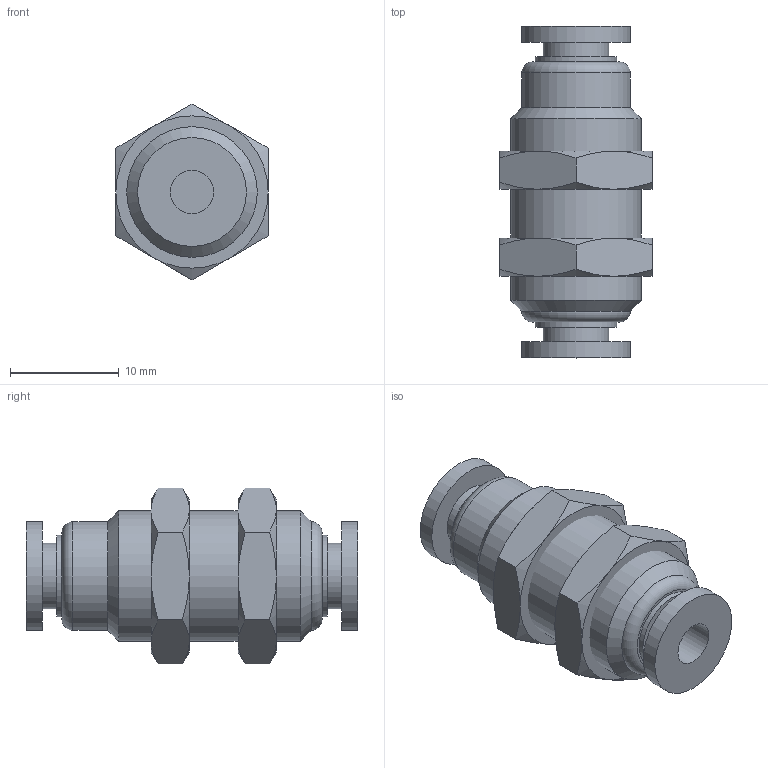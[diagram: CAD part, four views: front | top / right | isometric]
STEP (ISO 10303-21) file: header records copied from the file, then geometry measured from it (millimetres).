
FILE_DESCRIPTION((''),'2;1');
FILE_NAME('S:\UTecnico\ArchivioUT\Speciali Clienti\Speciali KONFIT\DISEGNI 3D\RP\RP 60\RP600004.stp','2013-02-18T14:32:43',('UT5'),(''),'Autodesk Inventor 2013','Autodesk Inventor 2013','');
FILE_SCHEMA(('AUTOMOTIVE_DESIGN { 1 0 10303 214 1 1 1 1 }'));
Length unit declared in the file: millimetre
Products named in the file (1): RP600004
Bounding box: 14 x 30.5 x 16.17 mm (x, y, z)
Volume: 3621.2 mm3; surface area: 2732.5 mm2
Topology: 3 solids, 3 shells, 61 faces, 119 edges, 70 vertices
Faces by surface type: cone 26, plane 24, cylinder 9, torus 2
Full cylindrical faces by diameter (mm): 4 x1, 6 x2, 7.5 x2, 10 x3, 12 x1
Entity records: 1462 total; most frequent: CARTESIAN_POINT 332, DIRECTION 226, ORIENTED_EDGE 210, AXIS2_PLACEMENT_3D 107, EDGE_CURVE 105, EDGE_LOOP 82, VERTEX_POINT 69, FACE_OUTER_BOUND 61
